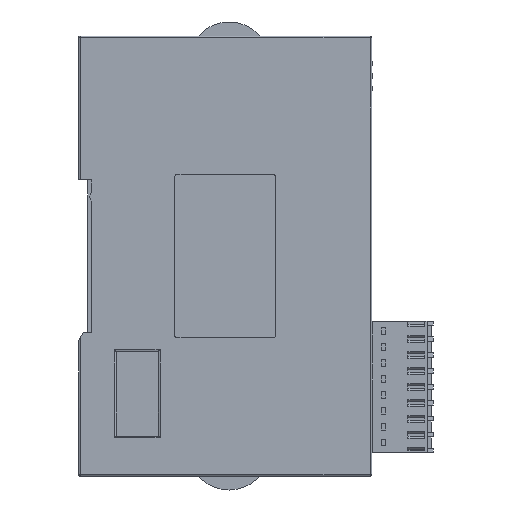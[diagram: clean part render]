
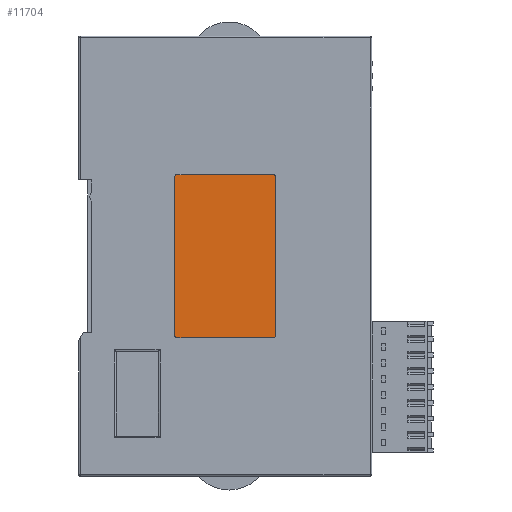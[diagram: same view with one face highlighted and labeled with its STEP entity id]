
A CAD part, left-side view. The second image highlights one B-rep face of the part: STEP entity #11704.
In plain terms, the highlighted planar face has unit normal (-1, 0, 0).
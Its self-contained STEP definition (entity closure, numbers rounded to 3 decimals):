
#11704=ADVANCED_FACE('',(#23780),#23782,.T.);
#23780=FACE_BOUND('',#23781,.T.);
#23781=EDGE_LOOP('',(#31068,#31069,#31070,#31071,#31072,#31073,#31074,#31075));
#23782=PLANE('',#23783);
#23783=AXIS2_PLACEMENT_3D('',#23784,#23785,#23786);
#23784=CARTESIAN_POINT('',(-345.703,-71.468,212.686));
#23785=DIRECTION('',(-1.,0.,0.));
#23786=DIRECTION('',(0.,0.,1.));
#31068=ORIENTED_EDGE('',*,*,#35891,.F.);
#31069=ORIENTED_EDGE('',*,*,#35888,.F.);
#31070=ORIENTED_EDGE('',*,*,#35887,.F.);
#31071=ORIENTED_EDGE('',*,*,#35884,.F.);
#31072=ORIENTED_EDGE('',*,*,#35883,.F.);
#31073=ORIENTED_EDGE('',*,*,#35896,.F.);
#31074=ORIENTED_EDGE('',*,*,#35895,.F.);
#31075=ORIENTED_EDGE('',*,*,#35892,.F.);
#35883=EDGE_CURVE('',#42949,#42947,#42951,.T.);
#35884=EDGE_CURVE('',#42947,#42952,#42953,.T.);
#35887=EDGE_CURVE('',#42952,#42955,#42957,.T.);
#35888=EDGE_CURVE('',#42955,#42958,#42959,.T.);
#35891=EDGE_CURVE('',#42958,#42961,#42963,.T.);
#35892=EDGE_CURVE('',#42961,#42964,#42965,.T.);
#35895=EDGE_CURVE('',#42964,#42967,#42969,.T.);
#35896=EDGE_CURVE('',#42967,#42949,#42970,.T.);
#42947=VERTEX_POINT('',#74713);
#42949=VERTEX_POINT('',#74717);
#42951=CIRCLE('',#74721,0.5);
#42952=VERTEX_POINT('',#74725);
#42953=LINE('',#74726,#74727);
#42955=VERTEX_POINT('',#74732);
#42957=CIRCLE('',#74736,0.5);
#42958=VERTEX_POINT('',#74740);
#42959=LINE('',#74741,#74742);
#42961=VERTEX_POINT('',#74747);
#42963=CIRCLE('',#74751,0.5);
#42964=VERTEX_POINT('',#74755);
#42965=LINE('',#74756,#74757);
#42967=VERTEX_POINT('',#74762);
#42969=CIRCLE('',#74766,0.5);
#42970=LINE('',#74770,#74771);
#74713=CARTESIAN_POINT('',(-345.703,-74.38,255.598));
#74717=CARTESIAN_POINT('',(-345.703,-73.88,255.098));
#74721=AXIS2_PLACEMENT_3D('',#74722,#74723,#74724);
#74722=CARTESIAN_POINT('',(-345.703,-74.38,255.098));
#74723=DIRECTION('',(1.,0.,0.));
#74724=DIRECTION('',(0.,1.,0.));
#74725=CARTESIAN_POINT('',(-345.703,-97.38,255.598));
#74726=CARTESIAN_POINT('',(-345.703,-74.38,255.598));
#74727=VECTOR('',#74728,1.);
#74728=DIRECTION('',(0.,-1.,0.));
#74732=CARTESIAN_POINT('',(-345.703,-97.88,255.098));
#74736=AXIS2_PLACEMENT_3D('',#74737,#74738,#74739);
#74737=CARTESIAN_POINT('',(-345.703,-97.38,255.098));
#74738=DIRECTION('',(1.,0.,0.));
#74739=DIRECTION('',(0.,0.,1.));
#74740=CARTESIAN_POINT('',(-345.703,-97.88,217.098));
#74741=CARTESIAN_POINT('',(-345.703,-97.88,255.098));
#74742=VECTOR('',#74743,1.);
#74743=DIRECTION('',(0.,0.,-1.));
#74747=CARTESIAN_POINT('',(-345.703,-97.38,216.598));
#74751=AXIS2_PLACEMENT_3D('',#74752,#74753,#74754);
#74752=CARTESIAN_POINT('',(-345.703,-97.38,217.098));
#74753=DIRECTION('',(1.,0.,0.));
#74754=DIRECTION('',(0.,-1.,0.));
#74755=CARTESIAN_POINT('',(-345.703,-74.38,216.598));
#74756=CARTESIAN_POINT('',(-345.703,-97.38,216.598));
#74757=VECTOR('',#74758,1.);
#74758=DIRECTION('',(0.,1.,0.));
#74762=CARTESIAN_POINT('',(-345.703,-73.88,217.098));
#74766=AXIS2_PLACEMENT_3D('',#74767,#74768,#74769);
#74767=CARTESIAN_POINT('',(-345.703,-74.38,217.098));
#74768=DIRECTION('',(1.,0.,0.));
#74769=DIRECTION('',(0.,0.,-1.));
#74770=CARTESIAN_POINT('',(-345.703,-73.88,217.098));
#74771=VECTOR('',#74772,1.);
#74772=DIRECTION('',(0.,0.,1.));
